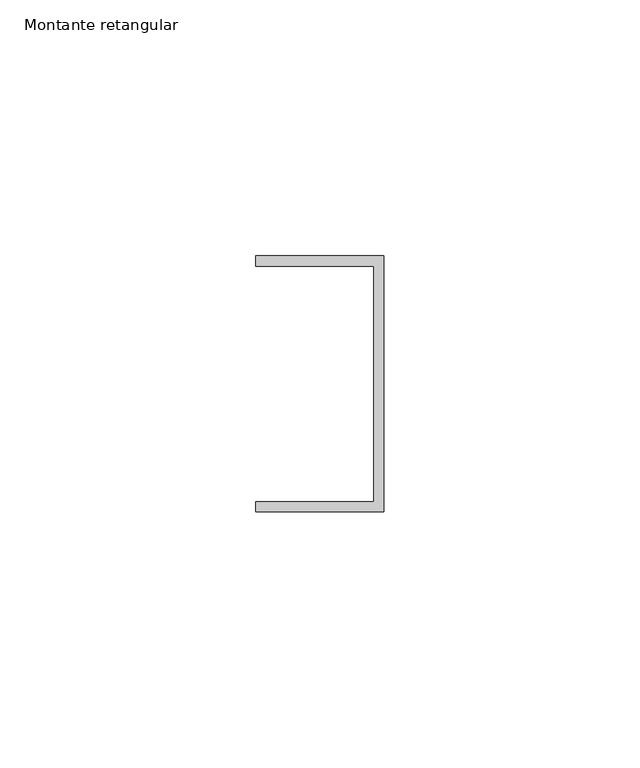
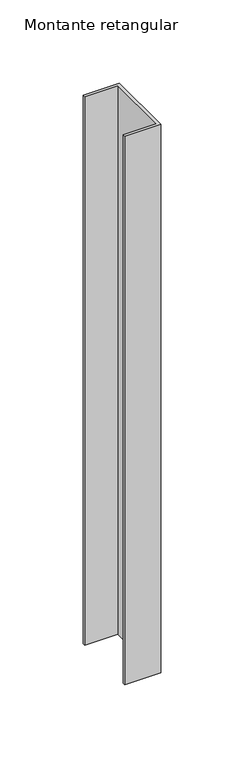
"""IFC4 building model written with IfcOpenShell, lengths in millimetres: member geometry, Montante retangular : FDE_MontanteVenezianaIndustrial_BordaOpção1_Ref50 (Alumínio Anodizado)."""

from ifc_helpers import new_model, si_unit, frame, origin, place, context, project, spatial, polyline, outline, extrude, source, transform, mapped, element, save


def montante_retangular_79dc672e(model_context):
    return source(origin(), model_context, "Body", "SweptSolid", [
        extrude(outline(polyline([(0.0, 25.0), (0.0, -25.0), (-25.0, -25.0), (-25.0, -23.0), (-2.0, -23.0), (-2.0, 23.0), (-25.0, 23.0), (-25.0, 25.0), (0.0, 25.0)])), frame((0.0, 0.0, -402.8947371), z_axis=(0.0, 0.0, 1.0), x_axis=(1.0, 0.0, 0.0)), (0.0, 0.0, 1.0), 402.8947371),
    ])


if __name__ == "__main__":
    model = new_model("IFC4")
    model_context = context("Model", 3, world=origin())
    ifc_project = project(units=[si_unit("LENGTHUNIT", "METRE", prefix="MILLI")], contexts=[model_context])
    site = spatial("IfcSite", under=ifc_project)
    building = spatial("IfcBuilding", under=site)
    placement = place(None, origin())
    montante_retangular_shape = montante_retangular_79dc672e(model_context)
    element("IfcMember", 1, ObjectType="Montante retangular : FDE_MontanteVenezianaIndustrial_BordaOpção1_Ref50 (Alumínio Anodizado)", at=placement, inside=building, context=model_context, shape_type="MappedRepresentation", body=[
        mapped(montante_retangular_shape, transform((0.0, 0.0, 0.0), x_axis=(1.0, 0.0, 0.0), y_axis=(0.0, 1.0, 0.0), z_axis=(0.0, 0.0, 1.0))),
    ])
    save(model, "model.ifc")
